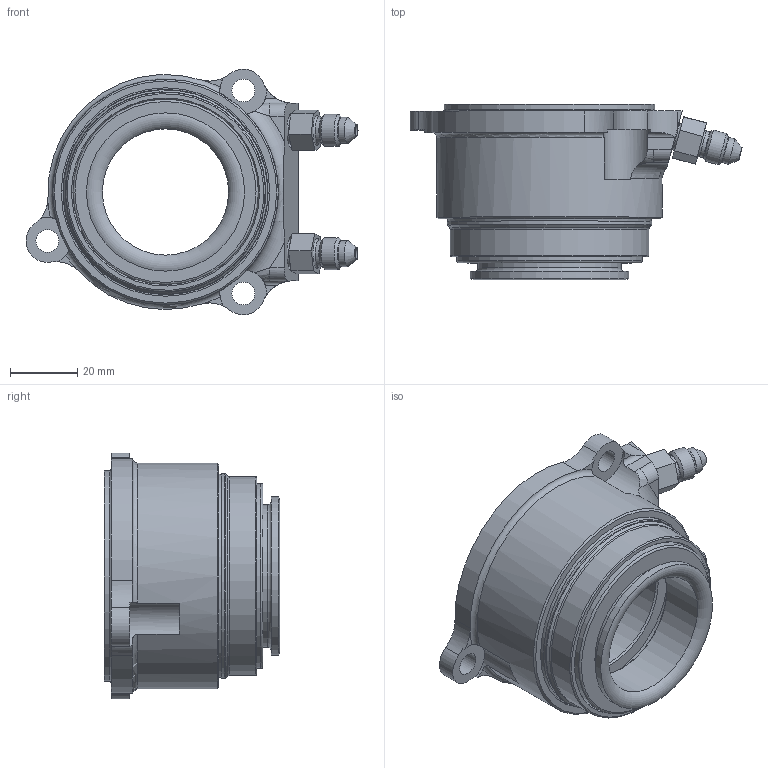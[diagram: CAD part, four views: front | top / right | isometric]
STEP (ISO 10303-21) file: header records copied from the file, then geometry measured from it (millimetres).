
FILE_DESCRIPTION(/* description */ ('Unknown'),/* implementation_level */ '2;1');
FILE_NAME(/* name */ 'TILTON 60-1210',/* time_stamp */ '2018-08-01T14:00:27-07:00',/* author */ ('Unknown'),/* organization */ ('Unknown'),/* preprocessor_version */ 'ST-DEVELOPER v16.7',/* originating_system */ 'DEX',/* authorisation */ $);
FILE_SCHEMA (('AUTOMOTIVE_DESIGN {1 0 10303 214 3 1 1}'));
Length unit declared in the file: millimetre
Products named in the file (1): TILTON 60-1210
Bounding box: 98.64 x 52.13 x 72.99 mm (x, y, z)
Volume: 106988.4 mm3; surface area: 33500.9 mm2
Topology: 1 solids, 4 shells, 177 faces, 425 edges, 272 vertices
Faces by surface type: plane 58, cylinder 57, torus 31, cone 29, bspline 2
Full cylindrical faces by diameter (mm): 3.175 x4, 6.756 x3, 7.734 x4, 7.925 x4, 8.379 x4, 9.525 x2, 37.5 x1, 38.1 x1, 42.5 x1, 47 x1, 47.714 x1, 55 x2, 57.061 x1, 57.912 x1, 59.182 x1, 60.96 x1, 61.925 x1, 62.512 x1, 64.77 x1, 64.922 x1, 67.056 x1
Entity records: 5951 total; most frequent: CARTESIAN_POINT 1079, DIRECTION 802, ORIENTED_EDGE 582, AXIS2_PLACEMENT_3D 361, FACE_BOUND 303, EDGE_LOOP 301, EDGE_CURVE 291, VERTEX_POINT 234
